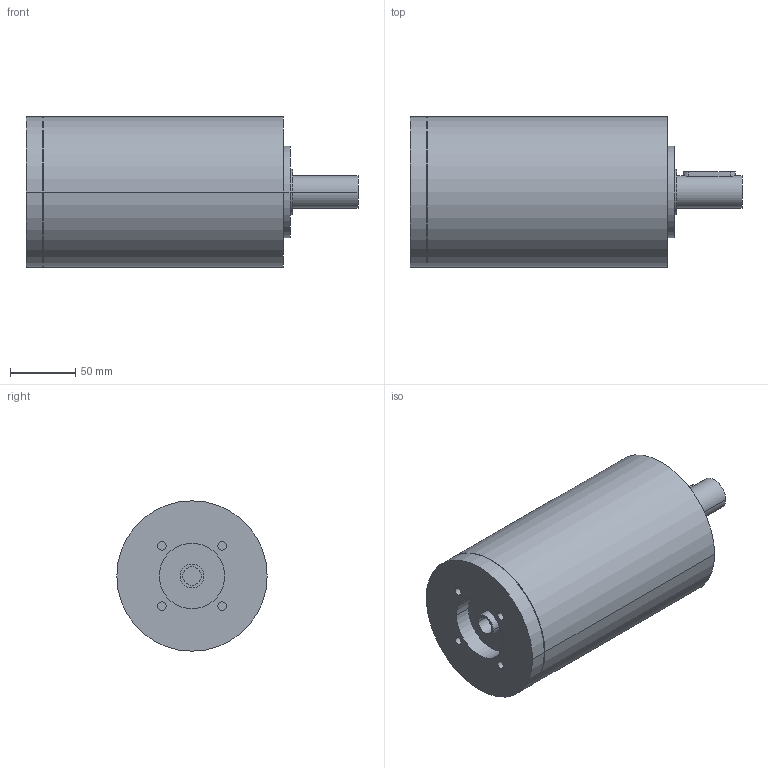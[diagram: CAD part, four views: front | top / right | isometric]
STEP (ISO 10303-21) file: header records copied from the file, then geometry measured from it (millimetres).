
FILE_DESCRIPTION(('CoCreate Modeling STEP Export'),'2;1');
FILE_NAME('GPR125_ig-48-64-80-100-140-196-245-343_25_B14_14_P10.stp','2014-08-26T14:20:47',(''),(''),'CoCreate Modeling STEP processor for AP214 (Solid Model)','CoCreate Modeling 16.00C 25-Feb-2009 (C) Parametric Technology GmbH','');
FILE_SCHEMA(('AUTOMOTIVE_DESIGN { 1 0 10303 214 1 1 1 1 }'));
Length unit declared in the file: millimetre
Products named in the file (2): GPR125_ig-48-64-80-100-140-196-245-343_25_B14_14_P10
Assembly tree (1 placements, depth 2):
  GPR125_ig-48-64-80-100-140-196-245-343_25_B14_14_P10
    GPR125_ig-48-64-80-100-140-196-245-343_25_B14_14_P10
Bounding box: 254 x 115 x 115 mm (x, y, z)
Volume: 2056405 mm3; surface area: 105832.9 mm2
Topology: 1 solids, 1 shells, 72 faces, 186 edges, 134 vertices
Faces by surface type: cylinder 44, plane 24, cone 4
Entity records: 1865 total; most frequent: ORIENTED_EDGE 368, CARTESIAN_POINT 348, DIRECTION 238, EDGE_CURVE 184, VERTEX_POINT 134, AXIS2_PLACEMENT_3D 92, EDGE_LOOP 92, FACE_OUTER_BOUND 72
